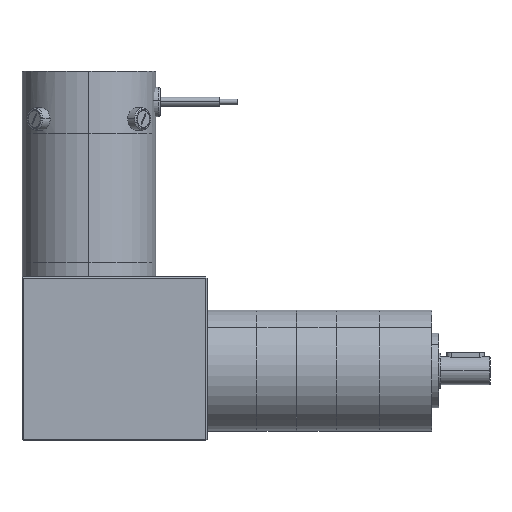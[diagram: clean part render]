
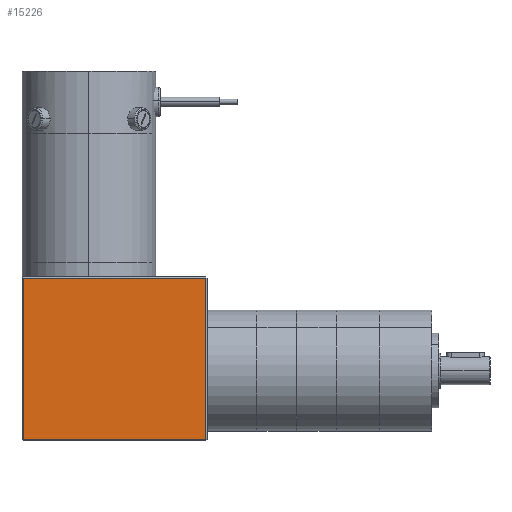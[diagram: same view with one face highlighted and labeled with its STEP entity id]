
A CAD part, top view. The second image highlights one B-rep face of the part: STEP entity #15226.
In plain terms, the highlighted planar face has unit normal (0, 0, 1).
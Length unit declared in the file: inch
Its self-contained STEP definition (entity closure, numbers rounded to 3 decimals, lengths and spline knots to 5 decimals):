
#341 = EDGE_CURVE ( 'NONE', #6707, #5208, #7284, .T. ) ;
#1056 = CARTESIAN_POINT ( 'NONE',  ( 6.99727, 2.54603, 3.00127 ) ) ;
#1079 = VECTOR ( 'NONE', #11214, 39.37008 ) ;
#1347 = DIRECTION ( 'NONE',  ( 0., -1., 0. ) ) ;
#2588 = CARTESIAN_POINT ( 'NONE',  ( 6.99727, -0.16397, 3.00127 ) ) ;
#2707 = FACE_OUTER_BOUND ( 'NONE', #5438, .T. ) ;
#2779 = CARTESIAN_POINT ( 'NONE',  ( 3.92427, 2.54603, 3.00127 ) ) ;
#3395 = AXIS2_PLACEMENT_3D ( 'NONE', #13793, #4199, #15083 ) ;
#4199 = DIRECTION ( 'NONE',  ( 0., 0., 1. ) ) ;
#4525 = ORIENTED_EDGE ( 'NONE', *, *, #9733, .T. ) ;
#4915 = VECTOR ( 'NONE', #15337, 39.37008 ) ;
#5208 = VERTEX_POINT ( 'NONE', #2779 ) ;
#5215 = EDGE_CURVE ( 'NONE', #15476, #5301, #17578, .T. ) ;
#5301 = VERTEX_POINT ( 'NONE', #2588 ) ;
#5438 = EDGE_LOOP ( 'NONE', ( #15425, #13697, #13236, #4525 ) ) ;
#6204 = VECTOR ( 'NONE', #8165, 39.37008 ) ;
#6707 = VERTEX_POINT ( 'NONE', #1056 ) ;
#6820 = CARTESIAN_POINT ( 'NONE',  ( 3.92427, -0.18397, 3.00127 ) ) ;
#6878 = PLANE ( 'NONE',  #3395 ) ;
#7284 = LINE ( 'NONE', #9805, #4915 ) ;
#8165 = DIRECTION ( 'NONE',  ( 1., 0., 0. ) ) ;
#8602 = CARTESIAN_POINT ( 'NONE',  ( 6.99727, 2.56603, 3.00127 ) ) ;
#9733 = EDGE_CURVE ( 'NONE', #5208, #15476, #15610, .T. ) ;
#9805 = CARTESIAN_POINT ( 'NONE',  ( 3.90427, 2.54603, 3.00127 ) ) ;
#11214 = DIRECTION ( 'NONE',  ( 0., 1., 0. ) ) ;
#12797 = CARTESIAN_POINT ( 'NONE',  ( 3.92427, -0.16397, 3.00127 ) ) ;
#13236 = ORIENTED_EDGE ( 'NONE', *, *, #341, .T. ) ;
#13584 = CARTESIAN_POINT ( 'NONE',  ( 7.01727, -0.16397, 3.00127 ) ) ;
#13697 = ORIENTED_EDGE ( 'NONE', *, *, #17546, .T. ) ;
#13793 = CARTESIAN_POINT ( 'NONE',  ( 5.46077, 1.19103, 3.00127 ) ) ;
#14529 = VECTOR ( 'NONE', #1347, 39.37008 ) ;
#15083 = DIRECTION ( 'NONE',  ( 1., 0., 0. ) ) ;
#15226 = ADVANCED_FACE ( 'NONE', ( #2707 ), #6878, .T. ) ;
#15337 = DIRECTION ( 'NONE',  ( -1., 0., 0. ) ) ;
#15425 = ORIENTED_EDGE ( 'NONE', *, *, #5215, .T. ) ;
#15476 = VERTEX_POINT ( 'NONE', #12797 ) ;
#15610 = LINE ( 'NONE', #6820, #14529 ) ;
#17546 = EDGE_CURVE ( 'NONE', #5301, #6707, #17838, .T. ) ;
#17578 = LINE ( 'NONE', #13584, #6204 ) ;
#17838 = LINE ( 'NONE', #8602, #1079 ) ;
